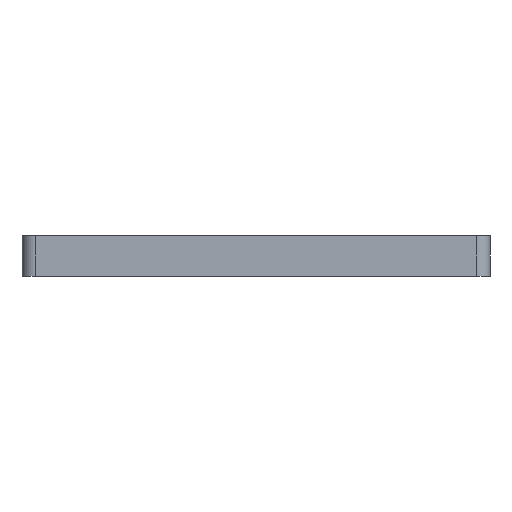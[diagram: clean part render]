
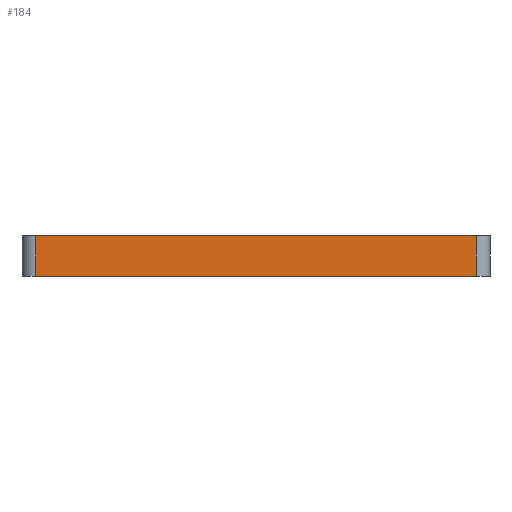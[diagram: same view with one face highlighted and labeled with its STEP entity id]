
A CAD part, front view. The second image highlights one B-rep face of the part: STEP entity #184.
In plain terms, the highlighted planar face has unit normal (0, -1, 0).
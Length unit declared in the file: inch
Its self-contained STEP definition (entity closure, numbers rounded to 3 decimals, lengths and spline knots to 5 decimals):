
#41 = ORIENTED_EDGE ( 'NONE', *, *, #1883, .F. ) ;
#171 = CARTESIAN_POINT ( 'NONE',  ( -2.165, -1.75, -0.1875 ) ) ;
#184 = ADVANCED_FACE ( 'NONE', ( #1386 ), #2401, .T. ) ;
#210 = DIRECTION ( 'NONE',  ( 1., 0., 0. ) ) ;
#270 = EDGE_CURVE ( 'NONE', #1005, #1822, #1410, .T. ) ;
#346 = ORIENTED_EDGE ( 'NONE', *, *, #1333, .T. ) ;
#358 = LINE ( 'NONE', #2737, #2480 ) ;
#593 = EDGE_LOOP ( 'NONE', ( #346, #1437, #41, #2387 ) ) ;
#755 = CARTESIAN_POINT ( 'NONE',  ( -2.165, -1.75, 0.1875 ) ) ;
#761 = VERTEX_POINT ( 'NONE', #1984 ) ;
#943 = CARTESIAN_POINT ( 'NONE',  ( 2.04, -1.75, -0.1875 ) ) ;
#1005 = VERTEX_POINT ( 'NONE', #1451 ) ;
#1035 = VECTOR ( 'NONE', #2503, 39.37008 ) ;
#1143 = DIRECTION ( 'NONE',  ( 0., 0., -1. ) ) ;
#1263 = VECTOR ( 'NONE', #2098, 39.37008 ) ;
#1333 = EDGE_CURVE ( 'NONE', #2327, #1005, #358, .T. ) ;
#1386 = FACE_OUTER_BOUND ( 'NONE', #593, .T. ) ;
#1410 = LINE ( 'NONE', #943, #1035 ) ;
#1437 = ORIENTED_EDGE ( 'NONE', *, *, #270, .T. ) ;
#1451 = CARTESIAN_POINT ( 'NONE',  ( 2.04, -1.75, -0.1875 ) ) ;
#1578 = CARTESIAN_POINT ( 'NONE',  ( -2.04, -1.75, -0.1875 ) ) ;
#1619 = EDGE_CURVE ( 'NONE', #761, #2327, #1892, .T. ) ;
#1647 = DIRECTION ( 'NONE',  ( 0., -1., 0. ) ) ;
#1822 = VERTEX_POINT ( 'NONE', #2651 ) ;
#1883 = EDGE_CURVE ( 'NONE', #761, #1822, #2402, .T. ) ;
#1892 = LINE ( 'NONE', #1578, #2389 ) ;
#1984 = CARTESIAN_POINT ( 'NONE',  ( -2.04, -1.75, 0.1875 ) ) ;
#2098 = DIRECTION ( 'NONE',  ( 1., 0., 0. ) ) ;
#2181 = DIRECTION ( 'NONE',  ( 1., 0., 0. ) ) ;
#2327 = VERTEX_POINT ( 'NONE', #2522 ) ;
#2387 = ORIENTED_EDGE ( 'NONE', *, *, #1619, .T. ) ;
#2389 = VECTOR ( 'NONE', #1143, 39.37008 ) ;
#2401 = PLANE ( 'NONE',  #2406 ) ;
#2402 = LINE ( 'NONE', #755, #1263 ) ;
#2406 = AXIS2_PLACEMENT_3D ( 'NONE', #171, #1647, #2181 ) ;
#2480 = VECTOR ( 'NONE', #210, 39.37008 ) ;
#2503 = DIRECTION ( 'NONE',  ( 0., 0., 1. ) ) ;
#2522 = CARTESIAN_POINT ( 'NONE',  ( -2.04, -1.75, -0.1875 ) ) ;
#2651 = CARTESIAN_POINT ( 'NONE',  ( 2.04, -1.75, 0.1875 ) ) ;
#2737 = CARTESIAN_POINT ( 'NONE',  ( -2.165, -1.75, -0.1875 ) ) ;
